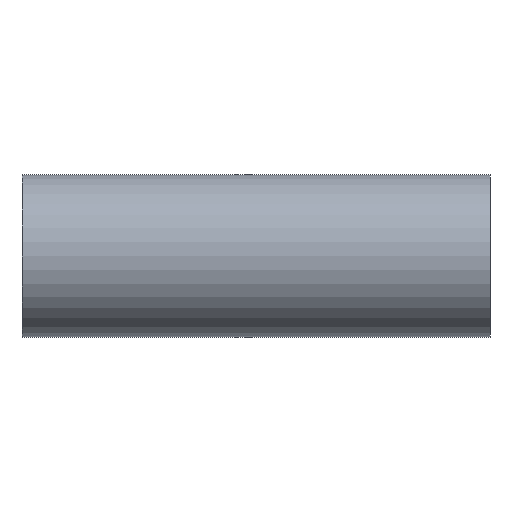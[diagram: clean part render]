
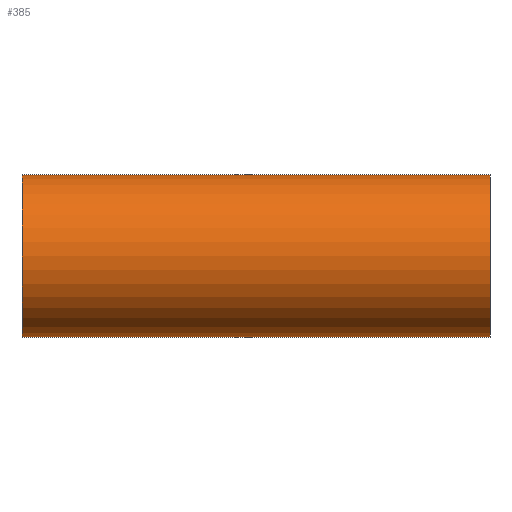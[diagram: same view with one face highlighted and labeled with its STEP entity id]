
A CAD part, front view. The second image highlights one B-rep face of the part: STEP entity #385.
In plain terms, the highlighted cylindrical face has radius 25.4 mm (diameter 50.8 mm), a partial arc.
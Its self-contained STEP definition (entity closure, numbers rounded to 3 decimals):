
#9 = EDGE_CURVE ( 'NONE', #301, #235, #491, .T. ) ;
#11 = CARTESIAN_POINT ( 'NONE',  ( 73., 0., 0. ) ) ;
#26 = VECTOR ( 'NONE', #31, 1000. ) ;
#27 = EDGE_CURVE ( 'NONE', #301, #246, #469, .T. ) ;
#31 = DIRECTION ( 'NONE',  ( 1., 0., 0. ) ) ;
#85 = CARTESIAN_POINT ( 'NONE',  ( 73., 0., -25.4 ) ) ;
#87 = ORIENTED_EDGE ( 'NONE', *, *, #27, .F. ) ;
#98 = ORIENTED_EDGE ( 'NONE', *, *, #527, .T. ) ;
#106 = DIRECTION ( 'NONE',  ( -1., 0., 0. ) ) ;
#116 = AXIS2_PLACEMENT_3D ( 'NONE', #292, #518, #310 ) ;
#138 = CYLINDRICAL_SURFACE ( 'NONE', #116, 25.4 ) ;
#153 = CARTESIAN_POINT ( 'NONE',  ( -73., 0., 25.4 ) ) ;
#180 = ORIENTED_EDGE ( 'NONE', *, *, #512, .T. ) ;
#182 = CIRCLE ( 'NONE', #514, 25.4 ) ;
#209 = DIRECTION ( 'NONE',  ( 0., 0., -1. ) ) ;
#229 = VECTOR ( 'NONE', #363, 1000. ) ;
#235 = VERTEX_POINT ( 'NONE', #395 ) ;
#246 = VERTEX_POINT ( 'NONE', #357 ) ;
#247 = DIRECTION ( 'NONE',  ( 0., 0., -1. ) ) ;
#276 = AXIS2_PLACEMENT_3D ( 'NONE', #440, #449, #209 ) ;
#292 = CARTESIAN_POINT ( 'NONE',  ( -73., 0., 0. ) ) ;
#301 = VERTEX_POINT ( 'NONE', #475 ) ;
#310 = DIRECTION ( 'NONE',  ( 0., 0., -1. ) ) ;
#345 = ORIENTED_EDGE ( 'NONE', *, *, #9, .T. ) ;
#348 = EDGE_LOOP ( 'NONE', ( #87, #345, #98, #180 ) ) ;
#357 = CARTESIAN_POINT ( 'NONE',  ( 73., 0., 25.4 ) ) ;
#363 = DIRECTION ( 'NONE',  ( 1., 0., 0. ) ) ;
#385 = ADVANCED_FACE ( 'NONE', ( #496 ), #138, .T. ) ;
#395 = CARTESIAN_POINT ( 'NONE',  ( -73., 0., -25.4 ) ) ;
#434 = LINE ( 'NONE', #442, #229 ) ;
#440 = CARTESIAN_POINT ( 'NONE',  ( -73., 0., 0. ) ) ;
#442 = CARTESIAN_POINT ( 'NONE',  ( -73., 0., -25.4 ) ) ;
#449 = DIRECTION ( 'NONE',  ( 1., 0., 0. ) ) ;
#469 = LINE ( 'NONE', #153, #26 ) ;
#475 = CARTESIAN_POINT ( 'NONE',  ( -73., 0., 25.4 ) ) ;
#491 = CIRCLE ( 'NONE', #276, 25.4 ) ;
#496 = FACE_OUTER_BOUND ( 'NONE', #348, .T. ) ;
#512 = EDGE_CURVE ( 'NONE', #515, #246, #182, .T. ) ;
#514 = AXIS2_PLACEMENT_3D ( 'NONE', #11, #106, #247 ) ;
#515 = VERTEX_POINT ( 'NONE', #85 ) ;
#518 = DIRECTION ( 'NONE',  ( 1., 0., 0. ) ) ;
#527 = EDGE_CURVE ( 'NONE', #235, #515, #434, .T. ) ;
